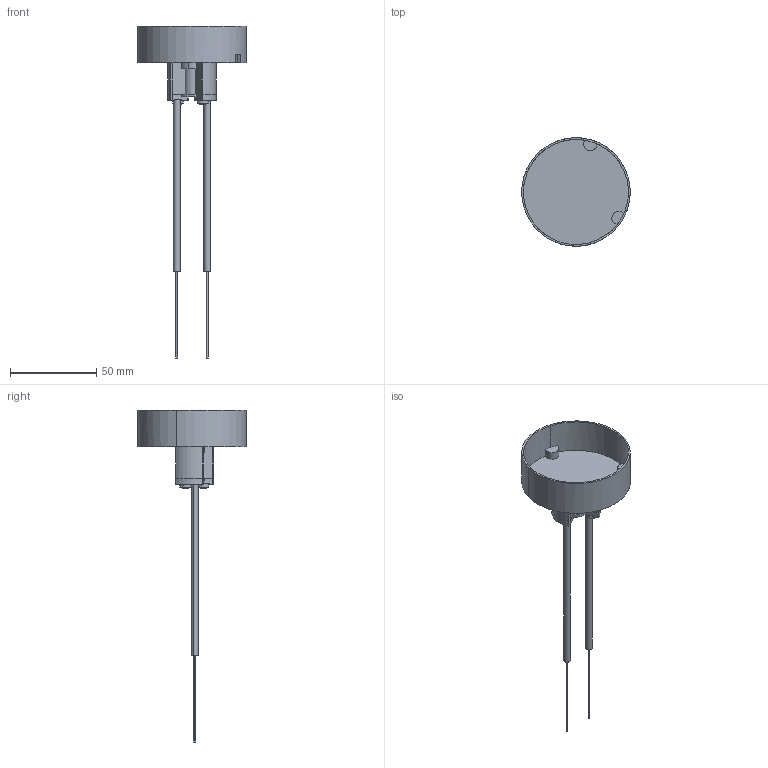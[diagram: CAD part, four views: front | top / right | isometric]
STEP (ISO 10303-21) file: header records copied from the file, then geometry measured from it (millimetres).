
FILE_DESCRIPTION (( 'STEP AP203' ), '1' );
FILE_NAME ('FR-30PRO.STEP', '2016-06-21T00:37:24', ( '' ), ( '' ), 'SwSTEP 2.0', 'SolidWorks 2014', '' );
FILE_SCHEMA (( 'CONFIG_CONTROL_DESIGN' ));
Length unit declared in the file: metre
Products named in the file (6): PROA30D-#-#-#-FR (5); PROA30D-#-#-#-FR (4); PROA30D-#-#-#-FR (1); FR-30PRO; PROA30D-#-#-#-FR (2); PROA30D-#-#-#-FR (7)
Assembly tree (9 placements, depth 2):
  FR-30PRO
    PROA30D-#-#-#-FR (4)
    PROA30D-#-#-#-FR (2)  x2
    PROA30D-#-#-#-FR (5)  x2
    PROA30D-#-#-#-FR (7)  x2
    PROA30D-#-#-#-FR (1)  x2
Bounding box: 62.92 x 62.93 x 192.7 mm (x, y, z)
Volume: 16876.2 mm3; surface area: 21680.4 mm2
Topology: 10 solids, 10 shells, 161 faces, 402 edges, 268 vertices
Faces by surface type: plane 81, cylinder 76, bspline 4
Entity records: 3753 total; most frequent: CARTESIAN_POINT 609, DIRECTION 545, ORIENTED_EDGE 486, EDGE_CURVE 243, AXIS2_PLACEMENT_3D 210, VERTEX_POINT 162, LINE 125, VECTOR 125
